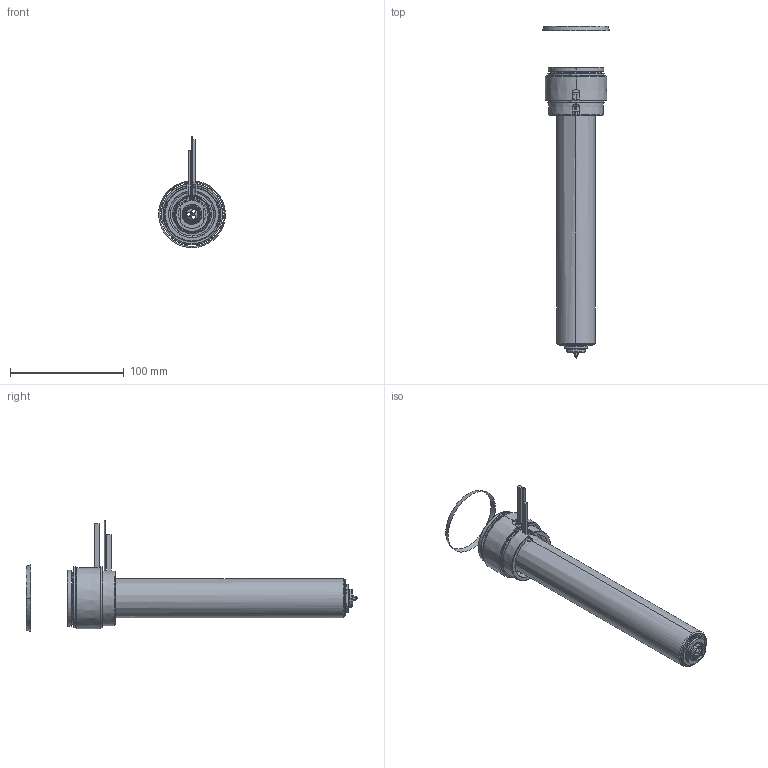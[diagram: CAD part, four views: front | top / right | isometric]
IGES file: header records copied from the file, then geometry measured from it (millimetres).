
Start section: SolidWorks IGES file using analytic representation for surfaces
Global section: file name: C:\Documents and Settings\ws-20\Desktop\TEM\UGEP5505-S-A-0 [Øf-1.18 ØC-12].IGS; native system: SolidWorks 2012; preprocessor: SolidWorks 2012; author: ws-20; date: 120427.080640; units: millimetre
Bounding box: 58.79 x 292.24 x 98.01 mm (x, y, z)
Surface area: 106340.9 mm2 (no closed solid volume)
Topology: 0 solids, 0 shells, 176 faces, 3587 edges, 3587 vertices
Faces by surface type: revolution 114, bspline 62
